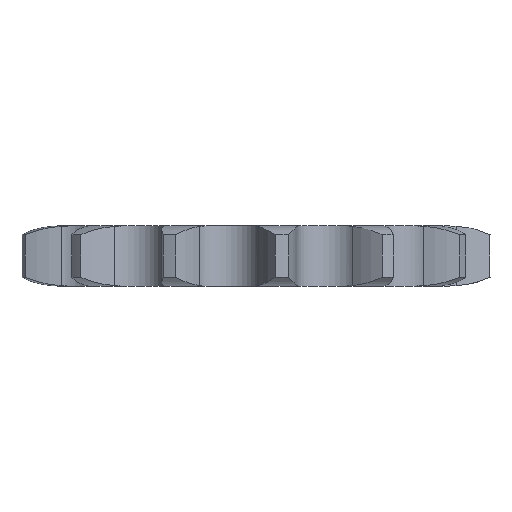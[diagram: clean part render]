
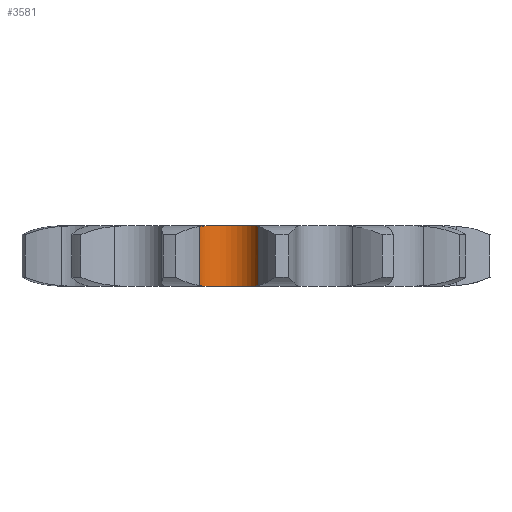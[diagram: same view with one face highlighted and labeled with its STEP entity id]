
A CAD part, left-side view. The second image highlights one B-rep face of the part: STEP entity #3581.
In plain terms, the highlighted cylindrical face has radius 6.095 mm (diameter 12.191 mm), a partial arc.
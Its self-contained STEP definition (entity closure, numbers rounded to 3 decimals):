
#178=CARTESIAN_POINT('',(-39.511,4.797,5.55));
#179=DIRECTION('',(0.,0.,1.));
#180=DIRECTION('',(0.55,-0.835,0.));
#181=AXIS2_PLACEMENT_3D('',#178,#179,#180);
#762=CARTESIAN_POINT('',(-39.511,4.797,-5.55));
#763=DIRECTION('',(0.,0.,1.));
#764=DIRECTION('',(0.55,-0.835,0.));
#765=AXIS2_PLACEMENT_3D('',#762,#763,#764);
#1405=DIRECTION('',(0.,0.,-1.));
#1406=VECTOR('',#1405,10.986);
#1407=CARTESIAN_POINT('',(-36.288,9.971,5.493));
#1408=LINE('',#1407,#1406);
#1424=CARTESIAN_POINT('',(-37.619,-0.997,
5.493));
#1425=CARTESIAN_POINT('',(-37.442,-0.939,
5.507));
#1426=CARTESIAN_POINT('',(-37.097,-0.808,
5.529));
#1427=CARTESIAN_POINT('',(-36.609,-0.572,
5.547));
#1428=CARTESIAN_POINT('',(-36.305,-0.389,5.55));
#1429=CARTESIAN_POINT('',(-36.158,-0.293,5.55));
#1434=DIRECTION('',(0.,0.,-1.));
#1435=VECTOR('',#1434,10.986);
#1436=CARTESIAN_POINT('',(-37.619,-0.997,
5.493));
#1437=LINE('',#1436,#1435);
#1441=CARTESIAN_POINT('',(-36.158,-0.293,-5.55));
#1442=CARTESIAN_POINT('',(-36.305,-0.39,-5.55));
#1443=CARTESIAN_POINT('',(-36.609,-0.572,
-5.547));
#1444=CARTESIAN_POINT('',(-37.097,-0.809,
-5.529));
#1445=CARTESIAN_POINT('',(-37.442,-0.939,
-5.507));
#1446=CARTESIAN_POINT('',(-37.619,-0.997,
-5.493));
#1451=CARTESIAN_POINT('',(-36.288,9.971,
-5.493));
#1452=CARTESIAN_POINT('',(-36.13,9.872,
-5.507));
#1453=CARTESIAN_POINT('',(-35.826,9.663,
-5.529));
#1454=CARTESIAN_POINT('',(-35.408,9.316,
-5.547));
#1455=CARTESIAN_POINT('',(-35.157,9.066,-5.55));
#1456=CARTESIAN_POINT('',(-35.038,8.938,-5.55));
#1461=CARTESIAN_POINT('',(-35.038,8.938,5.55));
#1462=CARTESIAN_POINT('',(-35.156,9.066,5.55));
#1463=CARTESIAN_POINT('',(-35.408,9.316,5.547));
#1464=CARTESIAN_POINT('',(-35.825,9.663,5.529));
#1465=CARTESIAN_POINT('',(-36.13,9.872,5.507));
#1466=CARTESIAN_POINT('',(-36.288,9.971,5.493));
#2237=CARTESIAN_POINT('',(-36.158,-0.293,5.55));
#2239=VERTEX_POINT('',#2237);
#2265=CARTESIAN_POINT('',(-36.158,-0.293,-5.55));
#2267=VERTEX_POINT('',#2265);
#2334=CARTESIAN_POINT('',(-35.038,8.938,5.55));
#2336=VERTEX_POINT('',#2334);
#2346=CARTESIAN_POINT('',(-35.038,8.938,-5.55));
#2348=VERTEX_POINT('',#2346);
#2372=VERTEX_POINT('',#1424);
#2373=VERTEX_POINT('',#1446);
#2374=CARTESIAN_POINT('',(-36.288,9.971,5.493));
#2375=CARTESIAN_POINT('',(-36.288,9.971,
-5.493));
#2376=VERTEX_POINT('',#2374);
#2377=VERTEX_POINT('',#2375);
#3565=CARTESIAN_POINT('',(-39.511,4.797,6.66));
#3566=DIRECTION('',(0.,0.,1.));
#3567=DIRECTION('',(0.121,0.993,0.));
#3568=AXIS2_PLACEMENT_3D('',#3565,#3566,#3567);
#3569=CYLINDRICAL_SURFACE('',#3568,6.095);
#3570=ORIENTED_EDGE('',*,*,#2567,.F.);
#3572=ORIENTED_EDGE('',*,*,#3571,.T.);
#3573=ORIENTED_EDGE('',*,*,#2970,.F.);
#3574=ORIENTED_EDGE('',*,*,#3265,.T.);
#3575=ORIENTED_EDGE('',*,*,#3196,.F.);
#3576=ORIENTED_EDGE('',*,*,#3559,.F.);
#3577=ORIENTED_EDGE('',*,*,#2798,.F.);
#3578=ORIENTED_EDGE('',*,*,#2535,.F.);
#3579=EDGE_LOOP('',(#3570,#3572,#3573,#3574,#3575,#3576,#3577,#3578));
#3580=FACE_OUTER_BOUND('',#3579,.F.);
#3581=ADVANCED_FACE('',(#3580),#3569,.F.);
#182=CIRCLE('',#181,6.095);
#766=CIRCLE('',#765,6.095);
#1430=B_SPLINE_CURVE_WITH_KNOTS('',3,(#1424,#1425,#1426,#1427,#1428,#1429),
.UNSPECIFIED.,.F.,.F.,(4,1,1,4),(0.,0.333,0.667,1.),
.UNSPECIFIED.);
#1447=B_SPLINE_CURVE_WITH_KNOTS('',3,(#1441,#1442,#1443,#1444,#1445,#1446),
.UNSPECIFIED.,.F.,.F.,(4,1,1,4),(0.,0.333,0.667,1.),
.UNSPECIFIED.);
#1457=B_SPLINE_CURVE_WITH_KNOTS('',3,(#1451,#1452,#1453,#1454,#1455,#1456),
.UNSPECIFIED.,.F.,.F.,(4,1,1,4),(0.,0.333,0.667,1.),
.UNSPECIFIED.);
#1467=B_SPLINE_CURVE_WITH_KNOTS('',3,(#1461,#1462,#1463,#1464,#1465,#1466),
.UNSPECIFIED.,.F.,.F.,(4,1,1,4),(0.,0.333,0.667,1.),
.UNSPECIFIED.);
#2535=EDGE_CURVE('',#2239,#2336,#182,.T.);
#2567=EDGE_CURVE('',#2372,#2239,#1430,.T.);
#2798=EDGE_CURVE('',#2336,#2376,#1467,.T.);
#2970=EDGE_CURVE('',#2267,#2373,#1447,.T.);
#3196=EDGE_CURVE('',#2377,#2348,#1457,.T.);
#3265=EDGE_CURVE('',#2267,#2348,#766,.T.);
#3559=EDGE_CURVE('',#2376,#2377,#1408,.T.);
#3571=EDGE_CURVE('',#2372,#2373,#1437,.T.);
